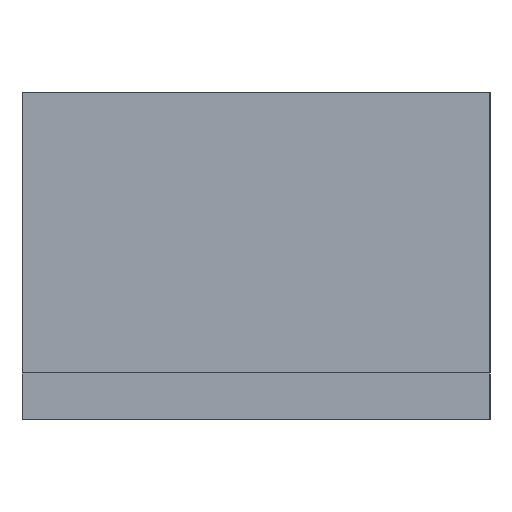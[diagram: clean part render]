
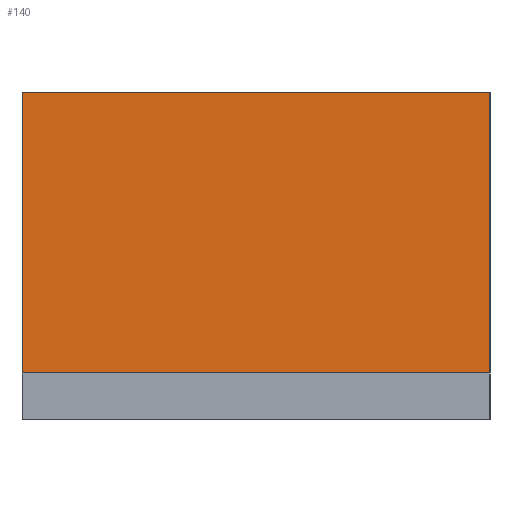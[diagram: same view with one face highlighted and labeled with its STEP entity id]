
A CAD part, left-side view. The second image highlights one B-rep face of the part: STEP entity #140.
In plain terms, the highlighted planar face has unit normal (-1, 0, 0) as drawn and (1, 0, 0) by its records, which use the part's own axes.
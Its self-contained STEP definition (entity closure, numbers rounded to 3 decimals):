
#140=ADVANCED_FACE('',(#357),#359,.T.);
#357=FACE_BOUND('',#358,.T.);
#358=EDGE_LOOP('',(#696,#697,#698,#699));
#359=PLANE('',#360);
#360=AXIS2_PLACEMENT_3D('',#361,#362,#363);
#361=CARTESIAN_POINT('',(0.5,-0.275,0.));
#362=DIRECTION('',(1.,0.,0.));
#363=DIRECTION('',(0.,1.,0.));
#696=ORIENTED_EDGE('',*,*,#929,.T.);
#697=ORIENTED_EDGE('',*,*,#930,.T.);
#698=ORIENTED_EDGE('',*,*,#931,.F.);
#699=ORIENTED_EDGE('',*,*,#932,.F.);
#929=EDGE_CURVE('',#1079,#1080,#1081,.T.);
#930=EDGE_CURVE('',#1080,#1082,#1083,.T.);
#931=EDGE_CURVE('',#1084,#1082,#1085,.T.);
#932=EDGE_CURVE('',#1079,#1084,#1086,.T.);
#1079=VERTEX_POINT('',#1210);
#1080=VERTEX_POINT('',#1211);
#1081=LINE('',#1212,#1213);
#1082=VERTEX_POINT('',#1215);
#1083=LINE('',#1216,#1217);
#1084=VERTEX_POINT('',#1219);
#1085=LINE('',#1220,#1221);
#1086=LINE('',#1223,#1224);
#1210=CARTESIAN_POINT('',(0.5,-0.275,0.));
#1211=CARTESIAN_POINT('',(0.5,0.275,0.));
#1212=CARTESIAN_POINT('',(0.5,-0.275,0.));
#1213=VECTOR('',#1214,1.);
#1214=DIRECTION('',(0.,1.,0.));
#1215=CARTESIAN_POINT('',(0.5,0.275,0.33));
#1216=CARTESIAN_POINT('',(0.5,0.275,0.));
#1217=VECTOR('',#1218,1.);
#1218=DIRECTION('',(0.,0.,1.));
#1219=CARTESIAN_POINT('',(0.5,-0.275,0.33));
#1220=CARTESIAN_POINT('',(0.5,-0.275,0.33));
#1221=VECTOR('',#1222,1.);
#1222=DIRECTION('',(0.,1.,0.));
#1223=CARTESIAN_POINT('',(0.5,-0.275,0.));
#1224=VECTOR('',#1225,1.);
#1225=DIRECTION('',(0.,0.,1.));
